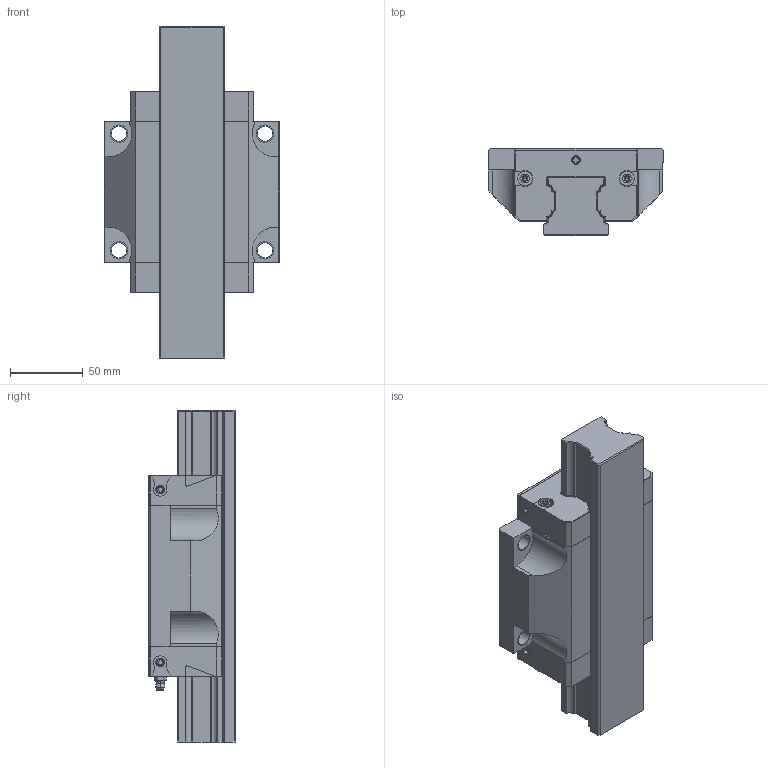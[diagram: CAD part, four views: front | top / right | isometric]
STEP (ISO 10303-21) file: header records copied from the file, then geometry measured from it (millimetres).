
FILE_DESCRIPTION((''),'2;1');
FILE_NAME('KWD_045_FNS_CS__ASM','2021-10-13T04:41:48',('ac91sw'),(''),'CREO PARAMETRIC BY PTC INC, 2020044','CREO PARAMETRIC BY PTC INC, 2020044','');
FILE_SCHEMA(('AUTOMOTIVE_DESIGN { 1 0 10303 214 1 1 1 1 }'));
Length unit declared in the file: millimetre
Products named in the file (7): KWD_045_FNS_CS__SKEL; R200140301; R200140102_Z; R343706101_Z; KWD_045_FNS_CS__PSF; R341700802_Z; KWD_045_FNS_CS__ASM
Assembly tree (11 placements, depth 2):
  KWD_045_FNS_CS__ASM
    KWD_045_FNS_CS__SKEL
    R200140301
    R200140102_Z  x2
    R343706101_Z  x5
    KWD_045_FNS_CS__PSF
    R341700802_Z
Bounding box: 120 x 60 x 227.6 mm (x, y, z)
Volume: 775253.2 mm3; surface area: 136766.2 mm2
Topology: 10 solids, 28 shells, 554 faces, 1430 edges, 918 vertices
Faces by surface type: plane 318, cylinder 162, cone 68, torus 4, sphere 2
Entity records: 17952 total; most frequent: CARTESIAN_POINT 2267, DIRECTION 1904, ORIENTED_EDGE 1780, EDGE_CURVE 914, PROPERTY_DEFINITION 822, REPRESENTATION 813, PROPERTY_DEFINITION_REPRESENTATION 813, DESCRIPTIVE_REPRESENTATION_ITEM 756
